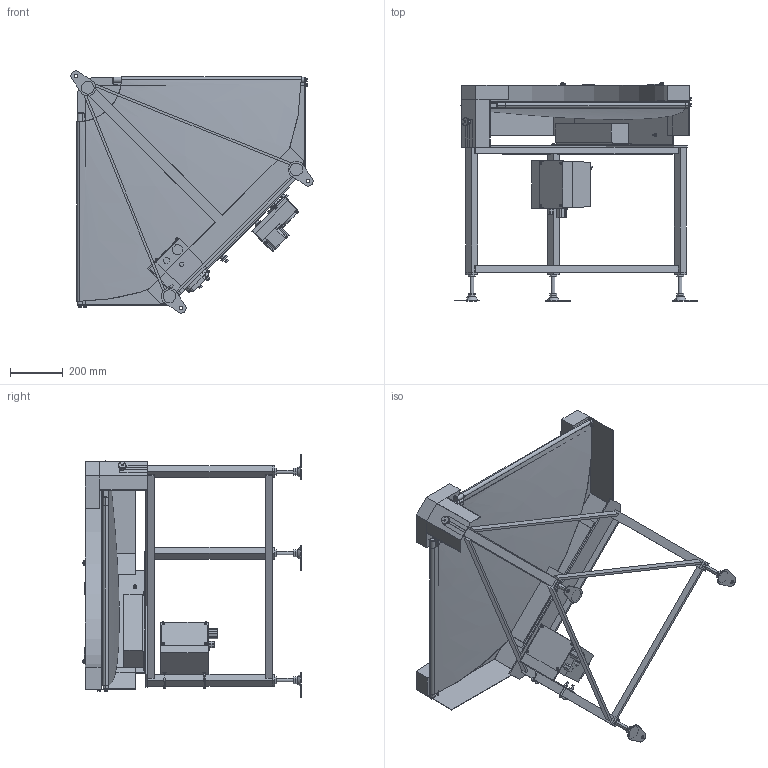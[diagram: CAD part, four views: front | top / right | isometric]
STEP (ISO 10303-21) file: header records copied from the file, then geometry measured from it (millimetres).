
FILE_DESCRIPTION( (''), '2;1');
FILE_NAME ('GFBC-HS-309-600-60°-R-DC-30.stp','2025-01-31T17:00:04',(''),(''),'spGate 20.6.2 (****-****-****-****)','','');
FILE_SCHEMA (('AUTOMOTIVE_DESIGN'));
Length unit declared in the file: millimetre
Products named in the file (65): NewModel; TEMP_X_T-prt0; TEMP_X_T-prt1; TEMP_X_T-prt2; TEMP_X_T-prt3; TEMP_X_T-prt4; TEMP_X_T-prt5; TEMP_X_T-prt6; TEMP_X_T-prt7; TEMP_X_T-prt8; TEMP_X_T-prt9; TEMP_X_T-prt10; TEMP_X_T-prt11; TEMP_X_T-prt12; TEMP_X_T-prt13; TEMP_X_T-prt14; TEMP_X_T-prt15; TEMP_X_T-prt16; TEMP_X_T-prt17; TEMP_X_T-prt18; TEMP_X_T-prt19; TEMP_X_T-prt20; TEMP_X_T-prt21; TEMP_X_T-prt22; TEMP_X_T-prt23; TEMP_X_T-prt24; TEMP_X_T-prt25; TEMP_X_T-prt26; TEMP_X_T-prt27; TEMP_X_T-prt28; TEMP_X_T-prt29; TEMP_X_T-prt30; TEMP_X_T-prt31; TEMP_X_T-prt32; TEMP_X_T-prt33; TEMP_X_T-prt34; TEMP_X_T-prt35; TEMP_X_T-prt36; TEMP_X_T-prt37; TEMP_X_T-prt38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
Assembly tree (64 placements, depth 2):
  NewModel
    TEMP_X_T-prt0
    TEMP_X_T-prt1
    TEMP_X_T-prt2
    TEMP_X_T-prt3
    TEMP_X_T-prt4
    TEMP_X_T-prt5
    TEMP_X_T-prt6
    TEMP_X_T-prt7
    TEMP_X_T-prt8
    TEMP_X_T-prt9
    TEMP_X_T-prt10
    TEMP_X_T-prt11
    TEMP_X_T-prt12
    TEMP_X_T-prt13
    TEMP_X_T-prt14
    TEMP_X_T-prt15
    TEMP_X_T-prt16
    TEMP_X_T-prt17
    TEMP_X_T-prt18
    TEMP_X_T-prt19
    TEMP_X_T-prt20
    TEMP_X_T-prt21
    TEMP_X_T-prt22
    TEMP_X_T-prt23
    TEMP_X_T-prt24
    TEMP_X_T-prt25
    TEMP_X_T-prt26
    TEMP_X_T-prt27
    TEMP_X_T-prt28
    TEMP_X_T-prt29
    TEMP_X_T-prt30
    TEMP_X_T-prt31
    TEMP_X_T-prt32
    TEMP_X_T-prt33
    TEMP_X_T-prt34
    TEMP_X_T-prt35
    TEMP_X_T-prt36
    TEMP_X_T-prt37
    TEMP_X_T-prt38
    TEMP_X_T-prt39
    TEMP_X_T-prt40
    TEMP_X_T-prt41
    TEMP_X_T-prt42
    TEMP_X_T-prt43
    TEMP_X_T-prt44
    TEMP_X_T-prt45
    TEMP_X_T-prt46
    TEMP_X_T-prt47
    TEMP_X_T-prt48
    TEMP_X_T-prt49
    TEMP_X_T-prt50
    TEMP_X_T-prt51
    TEMP_X_T-prt52
    TEMP_X_T-prt53
    TEMP_X_T-prt54
    TEMP_X_T-prt55
    TEMP_X_T-prt56
    TEMP_X_T-prt57
    TEMP_X_T-prt58
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Bounding box: 917.16 x 827.92 x 917.16 mm (x, y, z)
Volume: 23889770.1 mm3; surface area: 5905234.4 mm2
Topology: 65 solids, 65 shells, 1412 faces, 3284 edges, 2097 vertices
Faces by surface type: plane 860, cylinder 406, bspline 142, sphere 4
Entity records: 74034 total; most frequent: CARTESIAN_POINT 12799, DIRECTION 6778, ORIENTED_EDGE 6526, COLOUR_RGB 4739, PRESENTATION_STYLE_ASSIGNMENT 4739, STYLED_ITEM 4739, EDGE_CURVE 3263, DRAUGHTING_PRE_DEFINED_CURVE_FONT 3263
